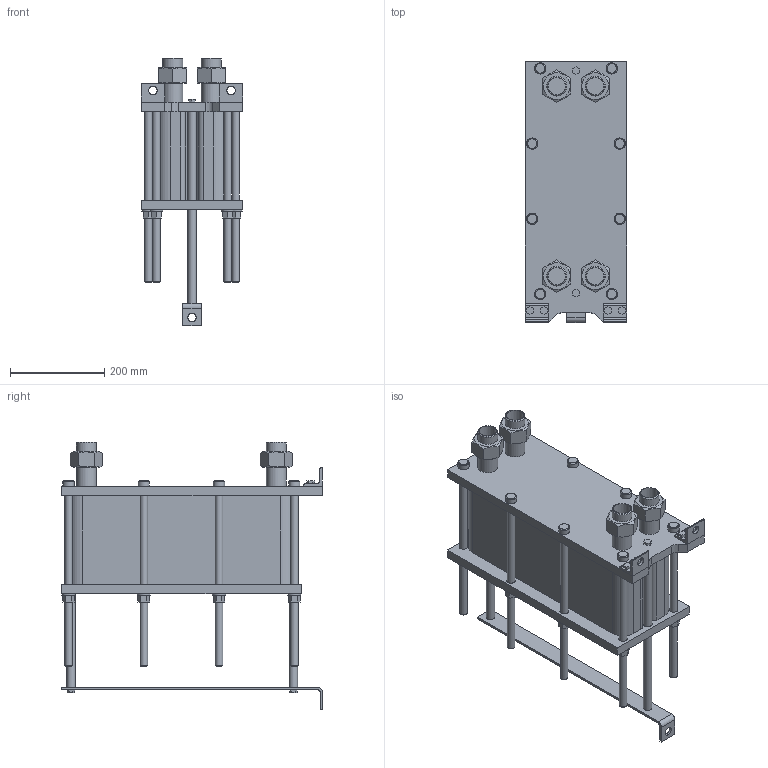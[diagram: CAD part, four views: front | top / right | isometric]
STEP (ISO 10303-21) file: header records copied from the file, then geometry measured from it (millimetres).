
FILE_DESCRIPTION(/* description */ (''),/* implementation_level */ '2;1');
FILE_NAME(/* name */ 'C:\Users\zhuro\Desktop\ENCO\TO\ЭН-004\ЭН-0,5-004-61-1.stp',/* time_stamp */ '2022-06-06T10:48:09+03:00',/* author */ ('zhuro'),/* organization */ (''),/* preprocessor_version */ 'ST-DEVELOPER v18.1',/* originating_system */ 'Autodesk Inventor 2022',/* authorisation */ '');
FILE_SCHEMA (('AUTOMOTIVE_DESIGN { 1 0 10303 214 3 1 1 }'));
Length unit declared in the file: millimetre
Products named in the file (1): ЭН-0,5-004-61-1
Bounding box: 216 x 555 x 569.8 mm (x, y, z)
Volume: 19799393.3 mm3; surface area: 1368347.6 mm2
Topology: 40 solids, 40 shells, 403 faces, 865 edges, 574 vertices
Faces by surface type: plane 272, cylinder 103, cone 28
Full cylindrical faces by diameter (mm): 10 x4, 16 x16, 18 x29, 20 x2, 24 x8, 28 x8, 36.3 x5, 42.3 x9
Entity records: 11137 total; most frequent: CARTESIAN_POINT 1939, DIRECTION 1879, ORIENTED_EDGE 1730, EDGE_CURVE 865, AXIS2_PLACEMENT_3D 658, VERTEX_POINT 574, LINE 563, VECTOR 563
